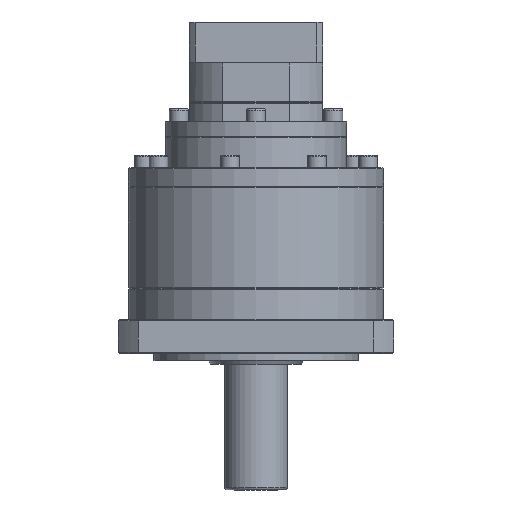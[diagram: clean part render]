
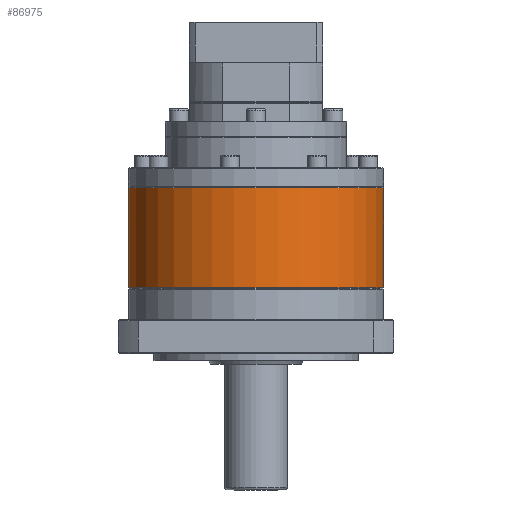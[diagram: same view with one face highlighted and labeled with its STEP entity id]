
A CAD part, front view. The second image highlights one B-rep face of the part: STEP entity #86975.
In plain terms, the highlighted cylindrical face has radius 81 mm (diameter 162 mm), a partial arc.
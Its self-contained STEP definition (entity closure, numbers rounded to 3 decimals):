
#1634 = CARTESIAN_POINT ( 'NONE',  ( -77.244, 24.66, 315.1 ) ) ;
#10537 = CARTESIAN_POINT ( 'NONE',  ( -77.244, 24.66, 251.6 ) ) ;
#11007 = DIRECTION ( 'NONE',  ( -1., 0., 0. ) ) ;
#24130 = AXIS2_PLACEMENT_3D ( 'NONE', #10537, #130218, #11007 ) ;
#24684 = CARTESIAN_POINT ( 'NONE',  ( -158.244, 24.66, 315.1 ) ) ;
#27551 = DIRECTION ( 'NONE',  ( 0., 0., -1. ) ) ;
#28869 = EDGE_CURVE ( 'NONE', #73812, #30688, #110626, .T. ) ;
#30688 = VERTEX_POINT ( 'NONE', #31148 ) ;
#31148 = CARTESIAN_POINT ( 'NONE',  ( -158.244, 24.66, 251.6 ) ) ;
#32310 = FACE_OUTER_BOUND ( 'NONE', #52702, .T. ) ;
#33853 = CARTESIAN_POINT ( 'NONE',  ( 3.756, 24.66, 315.1 ) ) ;
#34393 = DIRECTION ( 'NONE',  ( 0., 0., -1. ) ) ;
#44006 = EDGE_CURVE ( 'NONE', #91071, #121490, #124310, .T. ) ;
#51505 = VECTOR ( 'NONE', #34393, 1000. ) ;
#52702 = EDGE_LOOP ( 'NONE', ( #70655, #82550, #110092, #106642 ) ) ;
#53018 = VECTOR ( 'NONE', #71768, 1000. ) ;
#60451 = CARTESIAN_POINT ( 'NONE',  ( 3.756, 24.66, 251.6 ) ) ;
#70655 = ORIENTED_EDGE ( 'NONE', *, *, #44006, .F. ) ;
#71768 = DIRECTION ( 'NONE',  ( 0., 0., -1. ) ) ;
#73812 = VERTEX_POINT ( 'NONE', #24684 ) ;
#78351 = DIRECTION ( 'NONE',  ( 0., 0., -1. ) ) ;
#78790 = AXIS2_PLACEMENT_3D ( 'NONE', #1634, #78351, #121387 ) ;
#80529 = CARTESIAN_POINT ( 'NONE',  ( -77.244, 24.66, 315.6 ) ) ;
#80988 = DIRECTION ( 'NONE',  ( -1., 0., 0. ) ) ;
#81653 = CIRCLE ( 'NONE', #78790, 81. ) ;
#82550 = ORIENTED_EDGE ( 'NONE', *, *, #122503, .T. ) ;
#86555 = CYLINDRICAL_SURFACE ( 'NONE', #109196, 81. ) ;
#86851 = CIRCLE ( 'NONE', #24130, 81. ) ;
#86975 = ADVANCED_FACE ( 'NONE', ( #32310 ), #86555, .T. ) ;
#91071 = VERTEX_POINT ( 'NONE', #33853 ) ;
#94005 = EDGE_CURVE ( 'NONE', #30688, #121490, #86851, .T. ) ;
#99695 = CARTESIAN_POINT ( 'NONE',  ( 3.756, 24.66, 315.6 ) ) ;
#106642 = ORIENTED_EDGE ( 'NONE', *, *, #94005, .T. ) ;
#109196 = AXIS2_PLACEMENT_3D ( 'NONE', #80529, #27551, #80988 ) ;
#110092 = ORIENTED_EDGE ( 'NONE', *, *, #28869, .T. ) ;
#110626 = LINE ( 'NONE', #112571, #53018 ) ;
#112571 = CARTESIAN_POINT ( 'NONE',  ( -158.244, 24.66, 315.6 ) ) ;
#121387 = DIRECTION ( 'NONE',  ( -1., 0., 0. ) ) ;
#121490 = VERTEX_POINT ( 'NONE', #60451 ) ;
#122503 = EDGE_CURVE ( 'NONE', #91071, #73812, #81653, .T. ) ;
#124310 = LINE ( 'NONE', #99695, #51505 ) ;
#130218 = DIRECTION ( 'NONE',  ( 0., 0., 1. ) ) ;
